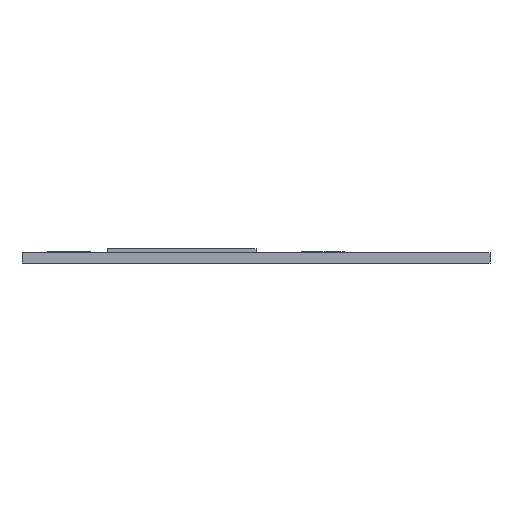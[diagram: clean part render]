
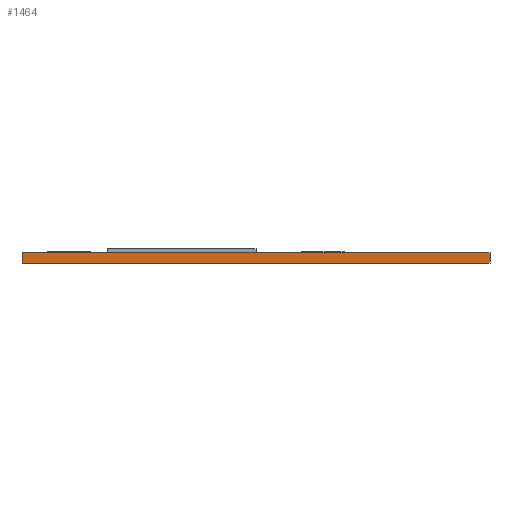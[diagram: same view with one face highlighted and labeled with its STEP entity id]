
A CAD part, left-side view. The second image highlights one B-rep face of the part: STEP entity #1464.
In plain terms, the highlighted planar face has unit normal (-1, 0, 0).
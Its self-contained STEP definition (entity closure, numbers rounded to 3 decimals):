
#242=CARTESIAN_POINT('',(0.,140.0,0.));
#243=VERTEX_POINT('',#242);
#246=DIRECTION('',(0.,1.0,0.));
#247=VECTOR('',#246,27.373);
#248=LINE('',#242,#247);
#249=CARTESIAN_POINT('',(0.,167.373,0.));
#250=VERTEX_POINT('',#249);
#251=EDGE_CURVE('',#243,#250,#248,.T.);
#253=DIRECTION('',(0.,1.0,0.));
#254=VECTOR('',#253,5.222);
#255=LINE('',#249,#254);
#256=CARTESIAN_POINT('',(0.,172.595,0.));
#257=VERTEX_POINT('',#256);
#258=EDGE_CURVE('',#250,#257,#255,.T.);
#260=DIRECTION('',(0.,1.0,0.));
#261=VECTOR('',#260,0.546);
#262=LINE('',#256,#261);
#263=CARTESIAN_POINT('',(0.,173.141,0.));
#264=VERTEX_POINT('',#263);
#265=EDGE_CURVE('',#257,#264,#262,.T.);
#267=DIRECTION('',(0.,1.0,0.));
#268=VECTOR('',#267,11.466);
#269=LINE('',#263,#268);
#270=CARTESIAN_POINT('',(0.,184.607,0.));
#271=VERTEX_POINT('',#270);
#272=EDGE_CURVE('',#264,#271,#269,.T.);
#274=DIRECTION('',(0.,1.0,0.));
#275=VECTOR('',#274,1.786);
#276=LINE('',#270,#275);
#277=CARTESIAN_POINT('',(0.,186.394,0.));
#278=VERTEX_POINT('',#277);
#279=EDGE_CURVE('',#271,#278,#276,.T.);
#281=DIRECTION('',(0.,1.0,0.));
#282=VECTOR('',#281,5.356);
#283=LINE('',#277,#282);
#284=CARTESIAN_POINT('',(0.,191.75,0.));
#285=VERTEX_POINT('',#284);
#286=EDGE_CURVE('',#278,#285,#283,.T.);
#288=DIRECTION('',(0.,-1.0,0.));
#289=VECTOR('',#288,1.856);
#290=CARTESIAN_POINT('',(0.,193.606,0.));
#291=LINE('',#290,#289);
#292=VERTEX_POINT('',#290);
#293=EDGE_CURVE('',#292,#285,#291,.T.);
#295=DIRECTION('',(0.,1.0,0.));
#296=VECTOR('',#295,3.788);
#297=LINE('',#290,#296);
#298=CARTESIAN_POINT('',(0.,197.394,0.));
#299=VERTEX_POINT('',#298);
#300=EDGE_CURVE('',#292,#299,#297,.T.);
#302=DIRECTION('',(0.,1.0,0.));
#303=VECTOR('',#302,18.);
#304=LINE('',#298,#303);
#305=CARTESIAN_POINT('',(0.,215.394,0.));
#306=VERTEX_POINT('',#305);
#307=EDGE_CURVE('',#299,#306,#304,.T.);
#309=DIRECTION('',(0.,1.0,0.));
#310=VECTOR('',#309,12.856);
#311=LINE('',#305,#310);
#312=CARTESIAN_POINT('',(0.,228.25,0.));
#313=VERTEX_POINT('',#312);
#314=EDGE_CURVE('',#306,#313,#311,.T.);
#316=DIRECTION('',(0.,-1.0,0.));
#317=VECTOR('',#316,18.609);
#318=CARTESIAN_POINT('',(0.,246.859,0.));
#319=LINE('',#318,#317);
#320=VERTEX_POINT('',#318);
#321=EDGE_CURVE('',#320,#313,#319,.T.);
#323=DIRECTION('',(0.,-1.0,0.));
#324=VECTOR('',#323,10.691);
#325=CARTESIAN_POINT('',(0.,257.55,0.));
#326=LINE('',#325,#324);
#327=VERTEX_POINT('',#325);
#328=EDGE_CURVE('',#327,#320,#326,.T.);
#330=DIRECTION('',(0.,-1.0,0.));
#331=VECTOR('',#330,15.258);
#332=CARTESIAN_POINT('',(0.,272.808,0.));
#333=LINE('',#332,#331);
#334=VERTEX_POINT('',#332);
#335=EDGE_CURVE('',#334,#327,#333,.T.);
#337=DIRECTION('',(0.,1.0,0.));
#338=VECTOR('',#337,7.192);
#339=LINE('',#332,#338);
#340=CARTESIAN_POINT('',(0.0,280.0,0.0));
#341=VERTEX_POINT('',#340);
#342=EDGE_CURVE('',#334,#341,#339,.T.);
#1298=CARTESIAN_POINT('',(0.0,280.0,2.98));
#1299=DIRECTION('',(-1.0,0.0,0.0));
#1300=DIRECTION('',(0.0,0.0,-1.0));
#1301=AXIS2_PLACEMENT_3D('',#1298,#1299,#1300);
#1302=PLANE('',#1301);
#1303=DIRECTION('',(0.0,0.0,1.0));
#1304=VECTOR('',#1303,2.98);
#1305=LINE('',#340,#1304);
#1306=CARTESIAN_POINT('',(0.0,280.0,2.98));
#1307=VERTEX_POINT('',#1306);
#1308=EDGE_CURVE('',#341,#1307,#1305,.T.);
#1309=ORIENTED_EDGE('',*,*,#1308,.F.);
#1310=ORIENTED_EDGE('',*,*,#342,.F.);
#1311=ORIENTED_EDGE('',*,*,#335,.T.);
#1312=ORIENTED_EDGE('',*,*,#328,.T.);
#1313=ORIENTED_EDGE('',*,*,#321,.T.);
#1314=ORIENTED_EDGE('',*,*,#314,.F.);
#1315=ORIENTED_EDGE('',*,*,#307,.F.);
#1316=ORIENTED_EDGE('',*,*,#300,.F.);
#1317=ORIENTED_EDGE('',*,*,#293,.T.);
#1318=ORIENTED_EDGE('',*,*,#286,.F.);
#1319=ORIENTED_EDGE('',*,*,#279,.F.);
#1320=ORIENTED_EDGE('',*,*,#272,.F.);
#1321=ORIENTED_EDGE('',*,*,#265,.F.);
#1322=ORIENTED_EDGE('',*,*,#258,.F.);
#1323=ORIENTED_EDGE('',*,*,#251,.F.);
#1324=DIRECTION('',(0.,0.0,1.0));
#1325=VECTOR('',#1324,2.98);
#1326=LINE('',#242,#1325);
#1327=CARTESIAN_POINT('',(0.,140.0,2.98));
#1328=VERTEX_POINT('',#1327);
#1329=EDGE_CURVE('',#243,#1328,#1326,.T.);
#1330=ORIENTED_EDGE('',*,*,#1329,.T.);
#1331=DIRECTION('',(0.,0.0,1.0));
#1332=VECTOR('',#1331,0.02);
#1333=LINE('',#1327,#1332);
#1334=CARTESIAN_POINT('',(0.,140.0,3.0));
#1335=VERTEX_POINT('',#1334);
#1336=EDGE_CURVE('',#1328,#1335,#1333,.T.);
#1337=ORIENTED_EDGE('',*,*,#1336,.T.);
#1338=DIRECTION('',(0.,1.0,0.0));
#1339=VECTOR('',#1338,27.373);
#1340=LINE('',#1334,#1339);
#1341=CARTESIAN_POINT('',(0.,167.373,3.0));
#1342=VERTEX_POINT('',#1341);
#1343=EDGE_CURVE('',#1335,#1342,#1340,.T.);
#1344=ORIENTED_EDGE('',*,*,#1343,.T.);
#1345=DIRECTION('',(0.,1.0,0.0));
#1346=VECTOR('',#1345,5.222);
#1347=LINE('',#1341,#1346);
#1348=CARTESIAN_POINT('',(0.,172.595,3.0));
#1349=VERTEX_POINT('',#1348);
#1350=EDGE_CURVE('',#1342,#1349,#1347,.T.);
#1351=ORIENTED_EDGE('',*,*,#1350,.T.);
#1352=DIRECTION('',(0.,1.0,0.0));
#1353=VECTOR('',#1352,0.546);
#1354=LINE('',#1348,#1353);
#1355=CARTESIAN_POINT('',(0.,173.141,3.0));
#1356=VERTEX_POINT('',#1355);
#1357=EDGE_CURVE('',#1349,#1356,#1354,.T.);
#1358=ORIENTED_EDGE('',*,*,#1357,.T.);
#1359=DIRECTION('',(0.,1.0,0.0));
#1360=VECTOR('',#1359,11.466);
#1361=LINE('',#1355,#1360);
#1362=CARTESIAN_POINT('',(0.,184.607,3.0));
#1363=VERTEX_POINT('',#1362);
#1364=EDGE_CURVE('',#1356,#1363,#1361,.T.);
#1365=ORIENTED_EDGE('',*,*,#1364,.T.);
#1366=DIRECTION('',(0.,1.0,0.0));
#1367=VECTOR('',#1366,1.786);
#1368=LINE('',#1362,#1367);
#1369=CARTESIAN_POINT('',(0.,186.394,3.0));
#1370=VERTEX_POINT('',#1369);
#1371=EDGE_CURVE('',#1363,#1370,#1368,.T.);
#1372=ORIENTED_EDGE('',*,*,#1371,.T.);
#1373=DIRECTION('',(0.,1.0,0.0));
#1374=VECTOR('',#1373,3.206);
#1375=LINE('',#1369,#1374);
#1376=CARTESIAN_POINT('',(0.,189.6,3.0));
#1377=VERTEX_POINT('',#1376);
#1378=EDGE_CURVE('',#1370,#1377,#1375,.T.);
#1379=ORIENTED_EDGE('',*,*,#1378,.T.);
#1380=DIRECTION('',(0.,1.0,0.0));
#1381=VECTOR('',#1380,2.15);
#1382=LINE('',#1376,#1381);
#1383=CARTESIAN_POINT('',(0.,191.75,3.0));
#1384=VERTEX_POINT('',#1383);
#1385=EDGE_CURVE('',#1377,#1384,#1382,.T.);
#1386=ORIENTED_EDGE('',*,*,#1385,.T.);
#1387=DIRECTION('',(0.,-1.0,0.0));
#1388=VECTOR('',#1387,1.856);
#1389=CARTESIAN_POINT('',(0.,193.606,3.0));
#1390=LINE('',#1389,#1388);
#1391=VERTEX_POINT('',#1389);
#1392=EDGE_CURVE('',#1391,#1384,#1390,.T.);
#1393=ORIENTED_EDGE('',*,*,#1392,.F.);
#1394=DIRECTION('',(0.,-1.0,0.0));
#1395=VECTOR('',#1394,3.201);
#1396=CARTESIAN_POINT('',(0.,196.808,3.0));
#1397=LINE('',#1396,#1395);
#1398=VERTEX_POINT('',#1396);
#1399=EDGE_CURVE('',#1398,#1391,#1397,.T.);
#1400=ORIENTED_EDGE('',*,*,#1399,.F.);
#1401=DIRECTION('',(0.,1.0,0.0));
#1402=VECTOR('',#1401,0.586);
#1403=LINE('',#1396,#1402);
#1404=CARTESIAN_POINT('',(0.,197.394,3.0));
#1405=VERTEX_POINT('',#1404);
#1406=EDGE_CURVE('',#1398,#1405,#1403,.T.);
#1407=ORIENTED_EDGE('',*,*,#1406,.T.);
#1408=DIRECTION('',(0.,1.0,0.0));
#1409=VECTOR('',#1408,18.);
#1410=LINE('',#1404,#1409);
#1411=CARTESIAN_POINT('',(0.,215.394,3.0));
#1412=VERTEX_POINT('',#1411);
#1413=EDGE_CURVE('',#1405,#1412,#1410,.T.);
#1414=ORIENTED_EDGE('',*,*,#1413,.T.);
#1415=DIRECTION('',(0.,1.0,0.0));
#1416=VECTOR('',#1415,12.856);
#1417=LINE('',#1411,#1416);
#1418=CARTESIAN_POINT('',(0.,228.25,3.0));
#1419=VERTEX_POINT('',#1418);
#1420=EDGE_CURVE('',#1412,#1419,#1417,.T.);
#1421=ORIENTED_EDGE('',*,*,#1420,.T.);
#1422=DIRECTION('',(0.,-1.0,0.0));
#1423=VECTOR('',#1422,18.609);
#1424=CARTESIAN_POINT('',(0.,246.859,3.0));
#1425=LINE('',#1424,#1423);
#1426=VERTEX_POINT('',#1424);
#1427=EDGE_CURVE('',#1426,#1419,#1425,.T.);
#1428=ORIENTED_EDGE('',*,*,#1427,.F.);
#1429=DIRECTION('',(0.,-1.0,0.0));
#1430=VECTOR('',#1429,10.691);
#1431=CARTESIAN_POINT('',(0.,257.55,3.0));
#1432=LINE('',#1431,#1430);
#1433=VERTEX_POINT('',#1431);
#1434=EDGE_CURVE('',#1433,#1426,#1432,.T.);
#1435=ORIENTED_EDGE('',*,*,#1434,.F.);
#1436=DIRECTION('',(0.,1.0,0.0));
#1437=VECTOR('',#1436,8.05);
#1438=LINE('',#1431,#1437);
#1439=CARTESIAN_POINT('',(0.,265.6,3.0));
#1440=VERTEX_POINT('',#1439);
#1441=EDGE_CURVE('',#1433,#1440,#1438,.T.);
#1442=ORIENTED_EDGE('',*,*,#1441,.T.);
#1443=DIRECTION('',(0.,-1.0,0.0));
#1444=VECTOR('',#1443,7.208);
#1445=CARTESIAN_POINT('',(0.,272.808,3.0));
#1446=LINE('',#1445,#1444);
#1447=VERTEX_POINT('',#1445);
#1448=EDGE_CURVE('',#1447,#1440,#1446,.T.);
#1449=ORIENTED_EDGE('',*,*,#1448,.F.);
#1450=DIRECTION('',(0.,1.0,0.0));
#1451=VECTOR('',#1450,7.192);
#1452=LINE('',#1445,#1451);
#1453=CARTESIAN_POINT('',(0.0,280.0,3.0));
#1454=VERTEX_POINT('',#1453);
#1455=EDGE_CURVE('',#1447,#1454,#1452,.T.);
#1456=ORIENTED_EDGE('',*,*,#1455,.T.);
#1457=DIRECTION('',(0.0,0.0,1.0));
#1458=VECTOR('',#1457,0.02);
#1459=LINE('',#1306,#1458);
#1460=EDGE_CURVE('',#1307,#1454,#1459,.T.);
#1461=ORIENTED_EDGE('',*,*,#1460,.F.);
#1462=EDGE_LOOP('',(#1309,#1310,#1311,#1312,#1313,#1314,#1315,#1316,#1317,#1318,#1319,#1320,#1321,#1322,#1323,#1330,#1337,#1344,#1351,#1358,#1365,#1372,#1379,#1386,#1393,#1400,#1407,#1414,#1421,#1428,#1435,#1442,#1449,#1456,#1461));
#1463=FACE_OUTER_BOUND('',#1462,.T.);
#1464=ADVANCED_FACE('',(#1463),#1302,.T.);
